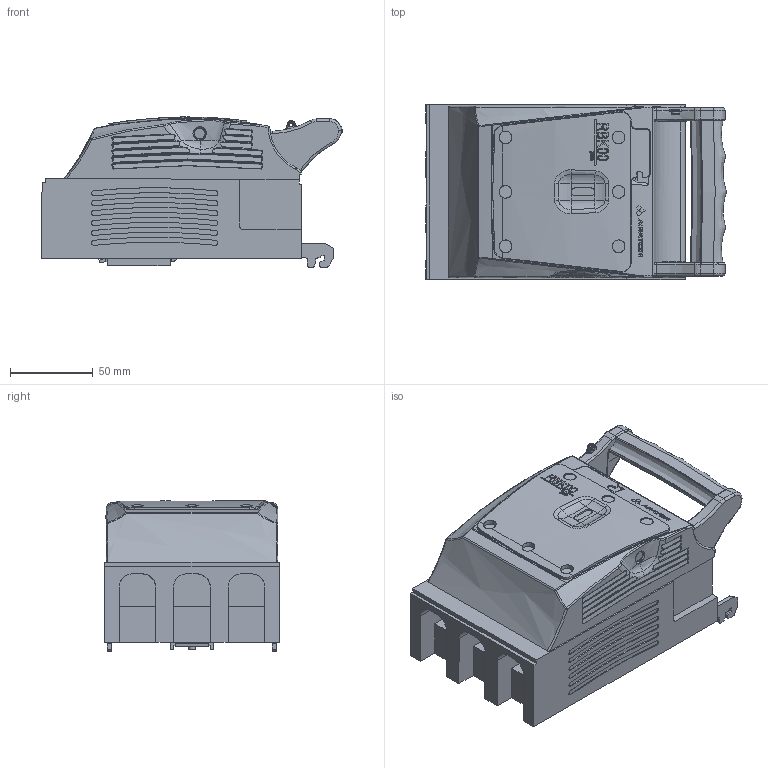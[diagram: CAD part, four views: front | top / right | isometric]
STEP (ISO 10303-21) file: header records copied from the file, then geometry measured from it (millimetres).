
FILE_DESCRIPTION(/* description */ (''),/* implementation_level */ '2;1');
FILE_NAME(/* name */ 'RBK 00 pro-E-150mm.stp',/* time_stamp */ '2019-03-13T07:54:56+01:00',/* author */ (''),/* organization */ (''),/* preprocessor_version */ 'ST-DEVELOPER v16',/* originating_system */ 'SIEMENS PLM Software NX 10.0',/* authorisation */ '');
FILE_SCHEMA (('AUTOMOTIVE_DESIGN { 1 0 10303 214 3 1 1 1 }'));
Products named in the file (1): 710_09740238alh3
Bounding box: 182.21 x 106 x 90.97 mm (x, y, z)
Volume: 1144276.9 mm3; surface area: 100313.6 mm2
Topology: 1 solids, 4 shells, 1520 faces, 4229 edges, 2760 vertices
Faces by surface type: plane 908, bspline 227, cylinder 159, cone 103, extrusion 62, torus 37, sphere 18, revolution 6
Full cylindrical faces by diameter (mm): 2.2 x1, 3.3 x1, 4 x3, 5.2 x4, 6.6 x1
Entity records: 68986 total; most frequent: CARTESIAN_POINT 26566, ORIENTED_EDGE 8336, DIRECTION 7704, EDGE_CURVE 4168, AXIS2_PLACEMENT_3D 2987, VERTEX_POINT 2747, VECTOR 1724, LINE 1662
